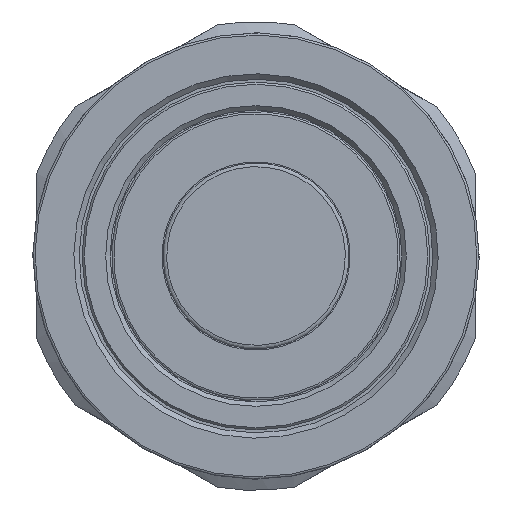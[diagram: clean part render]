
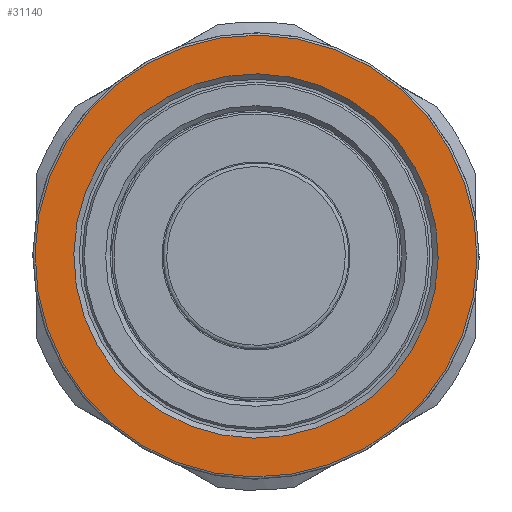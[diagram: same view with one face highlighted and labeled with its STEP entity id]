
A CAD part, front view. The second image highlights one B-rep face of the part: STEP entity #31140.
In plain terms, the highlighted planar face has unit normal (0, -1, 0).
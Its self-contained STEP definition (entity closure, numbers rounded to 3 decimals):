
#8666=FACE_BOUND('',#11938,.T.);
#10255=FACE_OUTER_BOUND('',#11937,.T.);
#11937=EDGE_LOOP('',(#29096));
#11938=EDGE_LOOP('',(#29097));
#12475=CIRCLE('',#32295,17.025);
#12478=CIRCLE('',#32300,20.65);
#15497=VERTEX_POINT('',#68870);
#15500=VERTEX_POINT('',#68880);
#20031=EDGE_CURVE('',#15497,#15497,#12475,.T.);
#20036=EDGE_CURVE('',#15500,#15500,#12478,.T.);
#29096=ORIENTED_EDGE('',*,*,#20036,.F.);
#29097=ORIENTED_EDGE('',*,*,#20031,.F.);
#29548=PLANE('',#32299);
#31140=ADVANCED_FACE('',(#10255,#8666),#29548,.T.);
#32295=AXIS2_PLACEMENT_3D('',#68871,#36342,#36343);
#32299=AXIS2_PLACEMENT_3D('',#68879,#36352,#36353);
#32300=AXIS2_PLACEMENT_3D('',#68881,#36354,#36355);
#36342=DIRECTION('center_axis',(0.,-1.,0.));
#36343=DIRECTION('ref_axis',(1.,0.,-0.014));
#36352=DIRECTION('center_axis',(0.,-1.,0.));
#36353=DIRECTION('ref_axis',(0.014,0.,1.));
#36354=DIRECTION('center_axis',(0.,1.,0.));
#36355=DIRECTION('ref_axis',(1.,0.,-0.014));
#68870=CARTESIAN_POINT('',(-17.023,-25.185,0.24));
#68871=CARTESIAN_POINT('Origin',(0.,-25.185,
0.));
#68879=CARTESIAN_POINT('Origin',(-20.848,-25.185,0.294));
#68880=CARTESIAN_POINT('',(0.291,-25.185,20.648));
#68881=CARTESIAN_POINT('Origin',(0.,-25.185,
0.));
